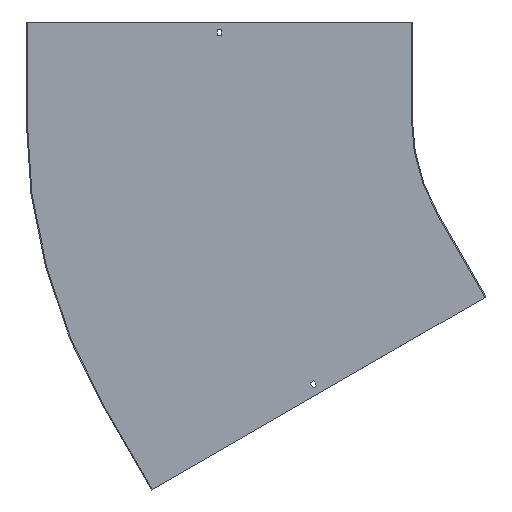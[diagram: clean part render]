
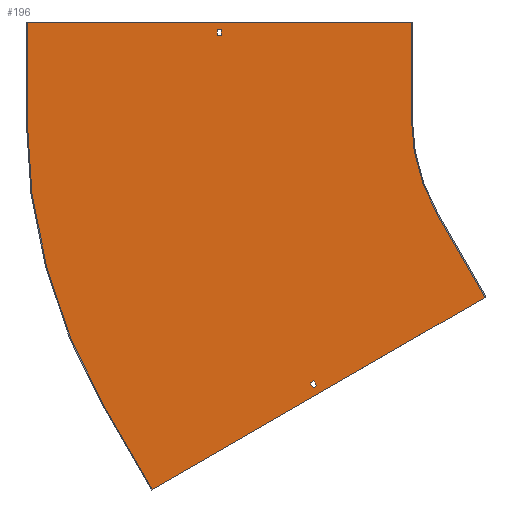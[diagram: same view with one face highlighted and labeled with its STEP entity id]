
A CAD part, front view. The second image highlights one B-rep face of the part: STEP entity #196.
In plain terms, the highlighted planar face has unit normal (0, -1, 0).
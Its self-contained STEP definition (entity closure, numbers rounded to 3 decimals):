
#3 = ORIENTED_EDGE ( 'NONE', *, *, #455, .F. ) ;
#6 = CARTESIAN_POINT ( 'NONE',  ( -901.5, -1.5, 150. ) ) ;
#10 = VECTOR ( 'NONE', #779, 1000. ) ;
#15 = ORIENTED_EDGE ( 'NONE', *, *, #318, .F. ) ;
#20 = ORIENTED_EDGE ( 'NONE', *, *, #672, .F. ) ;
#32 = CARTESIAN_POINT ( 'NONE',  ( -259.808, -1.5, -150. ) ) ;
#36 = ORIENTED_EDGE ( 'NONE', *, *, #300, .F. ) ;
#43 = DIRECTION ( 'NONE',  ( 0., 0., 1. ) ) ;
#56 = CARTESIAN_POINT ( 'NONE',  ( -447.801, -1.5, -417.887 ) ) ;
#59 = DIRECTION ( 'NONE',  ( -0.5, 0., 0.866 ) ) ;
#61 = VERTEX_POINT ( 'NONE', #388 ) ;
#81 = CIRCLE ( 'NONE', #125, 300. ) ;
#89 = DIRECTION ( 'NONE',  ( -1., 0., 0. ) ) ;
#91 = VERTEX_POINT ( 'NONE', #710 ) ;
#103 = ORIENTED_EDGE ( 'NONE', *, *, #425, .T. ) ;
#107 = EDGE_LOOP ( 'NONE', ( #481, #20, #500, #15, #392, #3, #320, #835 ) ) ;
#110 = DIRECTION ( 'NONE',  ( -0.866, 0., -0.5 ) ) ;
#113 = VERTEX_POINT ( 'NONE', #56 ) ;
#121 = DIRECTION ( 'NONE',  ( 0.5, 0., -0.866 ) ) ;
#122 = VERTEX_POINT ( 'NONE', #775 ) ;
#123 = CARTESIAN_POINT ( 'NONE',  ( -522.43, -1.5, -301.625 ) ) ;
#125 = AXIS2_PLACEMENT_3D ( 'NONE', #132, #546, #411 ) ;
#127 = VECTOR ( 'NONE', #482, 1000. ) ;
#132 = CARTESIAN_POINT ( 'NONE',  ( 0., -1.5, 0. ) ) ;
#140 = CARTESIAN_POINT ( 'NONE',  ( 69., -1.5, -119.512 ) ) ;
#157 = ORIENTED_EDGE ( 'NONE', *, *, #207, .T. ) ;
#158 = VERTEX_POINT ( 'NONE', #656 ) ;
#163 = CARTESIAN_POINT ( 'NONE',  ( -900., -1.5, 0. ) ) ;
#170 = DIRECTION ( 'NONE',  ( -0.5, 0., 0.866 ) ) ;
#177 = VERTEX_POINT ( 'NONE', #201 ) ;
#179 = EDGE_CURVE ( 'NONE', #465, #158, #800, .T. ) ;
#180 = CARTESIAN_POINT ( 'NONE',  ( -184.808, -1.5, -279.904 ) ) ;
#181 = VECTOR ( 'NONE', #375, 1000. ) ;
#191 = LINE ( 'NONE', #32, #310 ) ;
#192 = FACE_OUTER_BOUND ( 'NONE', #107, .T. ) ;
#196 = ADVANCED_FACE ( 'NONE', ( #600, #192, #861 ), #666, .T. ) ;
#200 = CARTESIAN_POINT ( 'NONE',  ( -900., -1.5, 150. ) ) ;
#201 = CARTESIAN_POINT ( 'NONE',  ( -452.301, -1.5, -410.092 ) ) ;
#205 = EDGE_CURVE ( 'NONE', #91, #337, #81, .T. ) ;
#207 = EDGE_CURVE ( 'NONE', #519, #122, #671, .T. ) ;
#208 = DIRECTION ( 'NONE',  ( 0., 0., -1. ) ) ;
#210 = EDGE_CURVE ( 'NONE', #402, #802, #621, .T. ) ;
#218 = ORIENTED_EDGE ( 'NONE', *, *, #311, .F. ) ;
#223 = LINE ( 'NONE', #437, #286 ) ;
#247 = LINE ( 'NONE', #723, #749 ) ;
#258 = AXIS2_PLACEMENT_3D ( 'NONE', #477, #405, #271 ) ;
#260 = LINE ( 'NONE', #468, #770 ) ;
#270 = LINE ( 'NONE', #140, #376 ) ;
#271 = DIRECTION ( 'NONE',  ( 0., 0., -1. ) ) ;
#286 = VECTOR ( 'NONE', #676, 1000. ) ;
#300 = EDGE_CURVE ( 'NONE', #177, #564, #260, .T. ) ;
#310 = VECTOR ( 'NONE', #476, 1000. ) ;
#311 = EDGE_CURVE ( 'NONE', #564, #780, #651, .T. ) ;
#318 = EDGE_CURVE ( 'NONE', #802, #686, #247, .T. ) ;
#320 = ORIENTED_EDGE ( 'NONE', *, *, #205, .F. ) ;
#326 = CARTESIAN_POINT ( 'NONE',  ( -704.423, -1.5, -579.904 ) ) ;
#337 = VERTEX_POINT ( 'NONE', #397 ) ;
#339 = CARTESIAN_POINT ( 'NONE',  ( 0., -1.5, 129. ) ) ;
#355 = VECTOR ( 'NONE', #121, 1000. ) ;
#375 = DIRECTION ( 'NONE',  ( 0., 0., -1. ) ) ;
#376 = VECTOR ( 'NONE', #416, 1000. ) ;
#388 = CARTESIAN_POINT ( 'NONE',  ( -596.75, -1.5, 138. ) ) ;
#392 = ORIENTED_EDGE ( 'NONE', *, *, #210, .F. ) ;
#397 = CARTESIAN_POINT ( 'NONE',  ( -259.808, -1.5, -150. ) ) ;
#402 = VERTEX_POINT ( 'NONE', #180 ) ;
#405 = DIRECTION ( 'NONE',  ( 0., -1., 0. ) ) ;
#411 = DIRECTION ( 'NONE',  ( 0., 0., -1. ) ) ;
#414 = ORIENTED_EDGE ( 'NONE', *, *, #506, .F. ) ;
#416 = DIRECTION ( 'NONE',  ( 0.866, 0., 0.5 ) ) ;
#423 = CARTESIAN_POINT ( 'NONE',  ( -183.509, -1.5, -279.154 ) ) ;
#425 = EDGE_CURVE ( 'NONE', #436, #61, #521, .T. ) ;
#436 = VERTEX_POINT ( 'NONE', #846 ) ;
#437 = CARTESIAN_POINT ( 'NONE',  ( -603.25, -1.5, 0. ) ) ;
#448 = LINE ( 'NONE', #788, #533 ) ;
#454 = LINE ( 'NONE', #163, #493 ) ;
#455 = EDGE_CURVE ( 'NONE', #337, #402, #191, .T. ) ;
#465 = VERTEX_POINT ( 'NONE', #200 ) ;
#468 = CARTESIAN_POINT ( 'NONE',  ( 64.5, -1.5, -111.717 ) ) ;
#470 = EDGE_CURVE ( 'NONE', #122, #436, #223, .T. ) ;
#476 = DIRECTION ( 'NONE',  ( 0.5, 0., -0.866 ) ) ;
#477 = CARTESIAN_POINT ( 'NONE',  ( 0., -1.5, 0. ) ) ;
#481 = ORIENTED_EDGE ( 'NONE', *, *, #179, .F. ) ;
#482 = DIRECTION ( 'NONE',  ( 0., 0., -1. ) ) ;
#493 = VECTOR ( 'NONE', #43, 1000. ) ;
#500 = ORIENTED_EDGE ( 'NONE', *, *, #530, .F. ) ;
#506 = EDGE_CURVE ( 'NONE', #780, #113, #270, .T. ) ;
#519 = VERTEX_POINT ( 'NONE', #607 ) ;
#520 = CARTESIAN_POINT ( 'NONE',  ( -900., -1.5, 0. ) ) ;
#521 = LINE ( 'NONE', #794, #10 ) ;
#530 = EDGE_CURVE ( 'NONE', #686, #622, #820, .T. ) ;
#533 = VECTOR ( 'NONE', #170, 1000. ) ;
#539 = CARTESIAN_POINT ( 'NONE',  ( -457.93, -1.5, -413.342 ) ) ;
#546 = DIRECTION ( 'NONE',  ( 0., -1., 0. ) ) ;
#550 = ORIENTED_EDGE ( 'NONE', *, *, #470, .T. ) ;
#564 = VERTEX_POINT ( 'NONE', #539 ) ;
#576 = EDGE_CURVE ( 'NONE', #61, #519, #845, .T. ) ;
#600 = FACE_BOUND ( 'NONE', #605, .T. ) ;
#605 = EDGE_LOOP ( 'NONE', ( #826, #414, #218, #36 ) ) ;
#607 = CARTESIAN_POINT ( 'NONE',  ( -596.75, -1.5, 129. ) ) ;
#614 = EDGE_CURVE ( 'NONE', #113, #177, #448, .T. ) ;
#621 = LINE ( 'NONE', #423, #720 ) ;
#622 = VERTEX_POINT ( 'NONE', #520 ) ;
#627 = ORIENTED_EDGE ( 'NONE', *, *, #576, .T. ) ;
#651 = LINE ( 'NONE', #123, #355 ) ;
#654 = EDGE_LOOP ( 'NONE', ( #103, #627, #157, #550 ) ) ;
#656 = CARTESIAN_POINT ( 'NONE',  ( -300., -1.5, 150. ) ) ;
#666 = PLANE ( 'NONE',  #258 ) ;
#671 = LINE ( 'NONE', #339, #746 ) ;
#672 = EDGE_CURVE ( 'NONE', #622, #465, #454, .T. ) ;
#676 = DIRECTION ( 'NONE',  ( 0., 0., 1. ) ) ;
#677 = DIRECTION ( 'NONE',  ( 1., 0., 0. ) ) ;
#686 = VERTEX_POINT ( 'NONE', #722 ) ;
#710 = CARTESIAN_POINT ( 'NONE',  ( -300., -1.5, 0. ) ) ;
#720 = VECTOR ( 'NONE', #801, 1000. ) ;
#722 = CARTESIAN_POINT ( 'NONE',  ( -779.423, -1.5, -450. ) ) ;
#723 = CARTESIAN_POINT ( 'NONE',  ( -704.423, -1.5, -579.904 ) ) ;
#726 = CARTESIAN_POINT ( 'NONE',  ( -300., -1.5, 150. ) ) ;
#734 = CARTESIAN_POINT ( 'NONE',  ( -453.43, -1.5, -421.137 ) ) ;
#741 = LINE ( 'NONE', #726, #127 ) ;
#746 = VECTOR ( 'NONE', #89, 1000. ) ;
#748 = VECTOR ( 'NONE', #677, 1000. ) ;
#749 = VECTOR ( 'NONE', #59, 1000. ) ;
#770 = VECTOR ( 'NONE', #110, 1000. ) ;
#775 = CARTESIAN_POINT ( 'NONE',  ( -603.25, -1.5, 129. ) ) ;
#777 = EDGE_CURVE ( 'NONE', #158, #91, #741, .T. ) ;
#779 = DIRECTION ( 'NONE',  ( 1., 0., 0. ) ) ;
#780 = VERTEX_POINT ( 'NONE', #734 ) ;
#781 = CARTESIAN_POINT ( 'NONE',  ( -596.75, -1.5, 0. ) ) ;
#788 = CARTESIAN_POINT ( 'NONE',  ( -516.801, -1.5, -298.375 ) ) ;
#794 = CARTESIAN_POINT ( 'NONE',  ( 0., -1.5, 138. ) ) ;
#799 = DIRECTION ( 'NONE',  ( 0., 1., 0. ) ) ;
#800 = LINE ( 'NONE', #6, #748 ) ;
#801 = DIRECTION ( 'NONE',  ( -0.866, 0., -0.5 ) ) ;
#802 = VERTEX_POINT ( 'NONE', #326 ) ;
#805 = CARTESIAN_POINT ( 'NONE',  ( 0., -1.5, 0. ) ) ;
#820 = CIRCLE ( 'NONE', #831, 900. ) ;
#826 = ORIENTED_EDGE ( 'NONE', *, *, #614, .F. ) ;
#831 = AXIS2_PLACEMENT_3D ( 'NONE', #805, #799, #208 ) ;
#835 = ORIENTED_EDGE ( 'NONE', *, *, #777, .F. ) ;
#845 = LINE ( 'NONE', #781, #181 ) ;
#846 = CARTESIAN_POINT ( 'NONE',  ( -603.25, -1.5, 138. ) ) ;
#861 = FACE_BOUND ( 'NONE', #654, .T. ) ;
